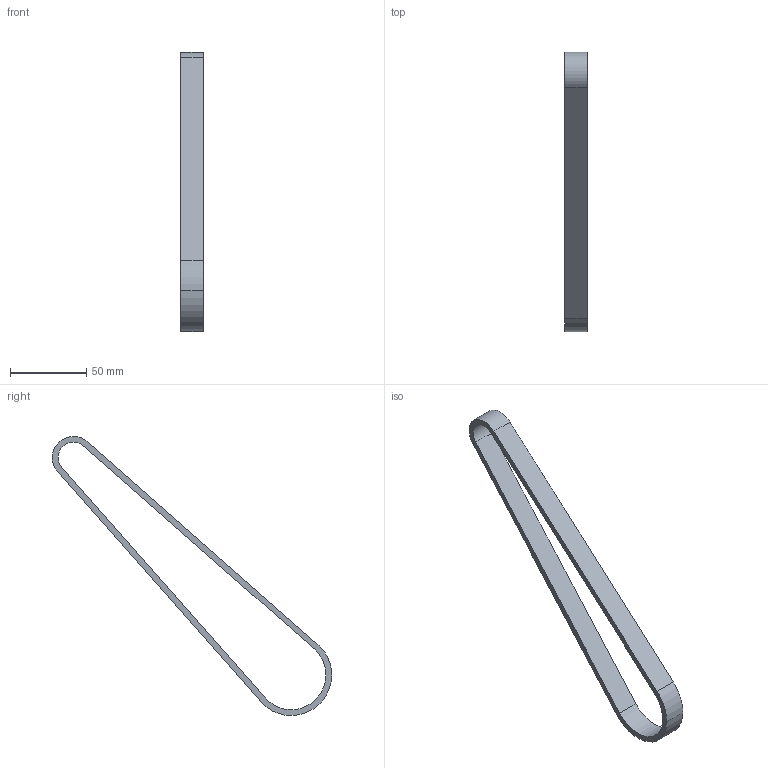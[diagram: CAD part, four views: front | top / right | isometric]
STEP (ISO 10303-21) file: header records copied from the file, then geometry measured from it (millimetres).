
FILE_DESCRIPTION (( 'STEP AP214' ), '1' );
FILE_NAME ('105T HTD Belt_1-TTB-0145.step', '2025-12-23T15:51:36', ( '' ), ( '' ), 'SwSTEP 2.0', 'SolidWorks 2026', '' );
FILE_SCHEMA (( 'AUTOMOTIVE_DESIGN' ));
Length unit declared in the file: inch
Products named in the file (1): 105T HTD Belt_1-TTB-0145
Bounding box: 15 x 183.55 x 183.25 mm (x, y, z)
Volume: 29736.4 mm3; surface area: 19574.5 mm2
Topology: 1 solids, 1 shells, 12 faces, 30 edges, 20 vertices
Faces by surface type: cylinder 6, plane 6
Entity records: 397 total; most frequent: DIRECTION 68, CARTESIAN_POINT 63, ORIENTED_EDGE 60, EDGE_CURVE 30, AXIS2_PLACEMENT_3D 25, VERTEX_POINT 20, LINE 18, VECTOR 18
